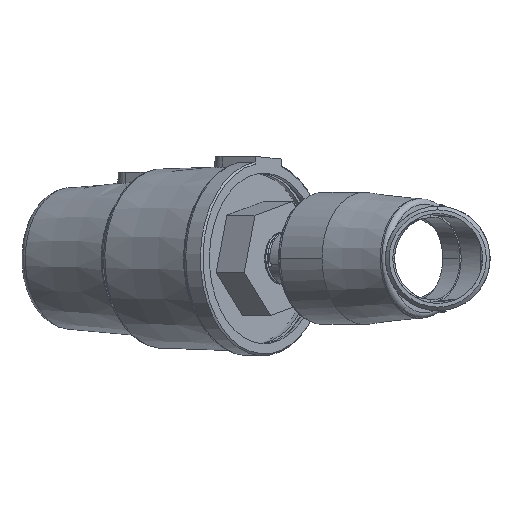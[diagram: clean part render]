
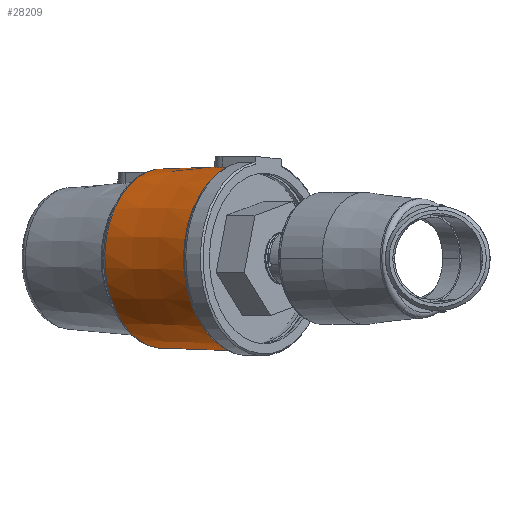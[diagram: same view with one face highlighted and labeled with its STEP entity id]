
A CAD part, left-side view. The second image highlights one B-rep face of the part: STEP entity #28209.
In plain terms, the highlighted conical face has half-angle 1.548 degrees and reference radius 48.921 mm.
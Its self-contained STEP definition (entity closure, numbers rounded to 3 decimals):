
#45 = VERTEX_POINT ( 'NONE', #87903 ) ;
#1550 = CARTESIAN_POINT ( 'NONE',  ( 501.979, 451.661, 49.215 ) ) ;
#3629 = DIRECTION ( 'NONE',  ( 0., 0., 1. ) ) ;
#6366 = CARTESIAN_POINT ( 'NONE',  ( 502.682, 462.445, 49.07 ) ) ;
#6713 = CARTESIAN_POINT ( 'NONE',  ( 509.098, 468.857, 49.815 ) ) ;
#7041 = CARTESIAN_POINT ( 'NONE',  ( 512.979, 507.47, 48.921 ) ) ;
#9598 = CIRCLE ( 'NONE', #26950, 48.921 ) ;
#9643 = CARTESIAN_POINT ( 'NONE',  ( 501.979, 453.167, 49.174 ) ) ;
#14443 = CARTESIAN_POINT ( 'NONE',  ( 503.436, 464.075, 49.178 ) ) ;
#14785 = CARTESIAN_POINT ( 'NONE',  ( 510.126, 469.188, 49.876 ) ) ;
#17717 = CARTESIAN_POINT ( 'NONE',  ( 501.979, 455.968, 49.096 ) ) ;
#22140 = VERTEX_POINT ( 'NONE', #39020 ) ;
#22242 = ORIENTED_EDGE ( 'NONE', *, *, #33998, .T. ) ;
#22542 = CARTESIAN_POINT ( 'NONE',  ( 504.252, 465.264, 49.296 ) ) ;
#22890 = CARTESIAN_POINT ( 'NONE',  ( 511.545, 469.488, 49.932 ) ) ;
#25833 = CARTESIAN_POINT ( 'NONE',  ( 501.979, 458.558, 49.024 ) ) ;
#26950 = AXIS2_PLACEMENT_3D ( 'NONE', #100015, #51791, #3629 ) ;
#27303 = VERTEX_POINT ( 'NONE', #67939 ) ;
#28209 = ADVANCED_FACE ( 'NONE', ( #36128 ), #31068, .T. ) ;
#29501 = DIRECTION ( 'NONE',  ( 0., 1., 0. ) ) ;
#30126 = EDGE_CURVE ( 'NONE', #45, #62513, #77599, .T. ) ;
#30314 = CARTESIAN_POINT ( 'NONE',  ( 501.979, 459.286, 49.004 ) ) ;
#30653 = CARTESIAN_POINT ( 'NONE',  ( 504.952, 466.088, 49.392 ) ) ;
#30990 = CARTESIAN_POINT ( 'NONE',  ( 512.979, 469.558, 49.946 ) ) ;
#31068 = CONICAL_SURFACE ( 'NONE', #59879, 48.921, 0.027 ) ;
#32891 = EDGE_CURVE ( 'NONE', #45, #71767, #9598, .T. ) ;
#33998 = EDGE_CURVE ( 'NONE', #62513, #27303, #101418, .T. ) ;
#35251 = DIRECTION ( 'NONE',  ( 0., -1., 0. ) ) ;
#36128 = FACE_OUTER_BOUND ( 'NONE', #44784, .T. ) ;
#38201 = CARTESIAN_POINT ( 'NONE',  ( 512.979, 507.47, -48.921 ) ) ;
#38729 = CARTESIAN_POINT ( 'NONE',  ( 506.265, 467.301, 49.558 ) ) ;
#39020 = CARTESIAN_POINT ( 'NONE',  ( 501.979, 458.558, 49.024 ) ) ;
#40076 = LINE ( 'NONE', #47446, #85406 ) ;
#43978 = EDGE_CURVE ( 'NONE', #22140, #71664, #83607, .T. ) ;
#44784 = EDGE_LOOP ( 'NONE', ( #70876, #56444, #62577, #22242, #46980, #72077 ) ) ;
#46453 = CARTESIAN_POINT ( 'NONE',  ( 502.261, 461.059, 49.018 ) ) ;
#46798 = CARTESIAN_POINT ( 'NONE',  ( 507.479, 468.091, 49.683 ) ) ;
#46980 = ORIENTED_EDGE ( 'NONE', *, *, #101296, .T. ) ;
#47446 = CARTESIAN_POINT ( 'NONE',  ( 512.979, 507.47, 48.921 ) ) ;
#51791 = DIRECTION ( 'NONE',  ( 0., 1., 0. ) ) ;
#54537 = CARTESIAN_POINT ( 'NONE',  ( 502.559, 462.101, 49.053 ) ) ;
#54878 = CARTESIAN_POINT ( 'NONE',  ( 508.436, 468.582, 49.767 ) ) ;
#56444 = ORIENTED_EDGE ( 'NONE', *, *, #32891, .F. ) ;
#59879 = AXIS2_PLACEMENT_3D ( 'NONE', #91493, #35251, #67222 ) ;
#62275 = CARTESIAN_POINT ( 'NONE',  ( 501.979, 458.558, 49.024 ) ) ;
#62513 = VERTEX_POINT ( 'NONE', #89035 ) ;
#62577 = ORIENTED_EDGE ( 'NONE', *, *, #30126, .T. ) ;
#62616 = CARTESIAN_POINT ( 'NONE',  ( 503.097, 463.444, 49.128 ) ) ;
#62958 = CARTESIAN_POINT ( 'NONE',  ( 509.436, 468.978, 49.837 ) ) ;
#65896 = CARTESIAN_POINT ( 'NONE',  ( 501.979, 454.673, 49.132 ) ) ;
#67222 = DIRECTION ( 'NONE',  ( 0., 0., -1. ) ) ;
#67939 = CARTESIAN_POINT ( 'NONE',  ( 501.979, 450.154, 49.257 ) ) ;
#70069 = AXIS2_PLACEMENT_3D ( 'NONE', #77657, #29501, #85755 ) ;
#70724 = CARTESIAN_POINT ( 'NONE',  ( 504.035, 464.972, 49.265 ) ) ;
#70876 = ORIENTED_EDGE ( 'NONE', *, *, #90005, .F. ) ;
#71062 = CARTESIAN_POINT ( 'NONE',  ( 510.48, 469.276, 49.892 ) ) ;
#71664 = VERTEX_POINT ( 'NONE', #78822 ) ;
#71767 = VERTEX_POINT ( 'NONE', #7041 ) ;
#72077 = ORIENTED_EDGE ( 'NONE', *, *, #43978, .T. ) ;
#73990 = CARTESIAN_POINT ( 'NONE',  ( 501.979, 457.263, 49.06 ) ) ;
#77599 = LINE ( 'NONE', #38201, #96477 ) ;
#77657 = CARTESIAN_POINT ( 'NONE',  ( 512.979, 450.154, 0. ) ) ;
#78822 = CARTESIAN_POINT ( 'NONE',  ( 512.979, 469.558, 49.946 ) ) ;
#78832 = CARTESIAN_POINT ( 'NONE',  ( 504.711, 465.822, 49.36 ) ) ;
#79172 = CARTESIAN_POINT ( 'NONE',  ( 512.259, 469.558, 49.946 ) ) ;
#82280 = B_SPLINE_CURVE_WITH_KNOTS ( 'NONE', 3,
 ( #97937, #1550, #9643, #65896, #17717, #73990, #25833 ),
 .UNSPECIFIED., .F., .F.,
 ( 4, 3, 4 ),
 ( 0.094, 0.098, 0.102 ),
 .UNSPECIFIED. ) ;
#83607 = B_SPLINE_CURVE_WITH_KNOTS ( 'NONE', 3,
 ( #62275, #30314, #94666, #46453, #102742, #54537, #6366, #62616, #14443, #70724, #22542, #78832, #30653, #86913, #38729, #95007, #46798, #103079, #54878, #6713, #62958, #14785, #71062, #22890, #79172, #30990 ),
 .UNSPECIFIED., .F., .F.,
 ( 4, 2, 2, 2, 2, 2, 2, 2, 2, 2, 2, 2, 4 ),
 ( 0., 0.002, 0.003, 0.004, 0.006, 0.008, 0.009, 0.011, 0.012, 0.013, 0.014, 0.015, 0.017 ),
 .UNSPECIFIED. ) ;
#85406 = VECTOR ( 'NONE', #95653, 1000. ) ;
#85755 = DIRECTION ( 'NONE',  ( 0., 0., 1. ) ) ;
#86913 = CARTESIAN_POINT ( 'NONE',  ( 505.712, 466.847, 49.491 ) ) ;
#87903 = CARTESIAN_POINT ( 'NONE',  ( 512.979, 507.47, -48.921 ) ) ;
#89035 = CARTESIAN_POINT ( 'NONE',  ( 512.979, 450.154, -50.47 ) ) ;
#90005 = EDGE_CURVE ( 'NONE', #71767, #71664, #40076, .T. ) ;
#91493 = CARTESIAN_POINT ( 'NONE',  ( 512.979, 507.47, 0. ) ) ;
#94666 = CARTESIAN_POINT ( 'NONE',  ( 502.05, 460.002, 49.001 ) ) ;
#95007 = CARTESIAN_POINT ( 'NONE',  ( 507.168, 467.905, 49.653 ) ) ;
#95653 = DIRECTION ( 'NONE',  ( 0., -1., 0.027 ) ) ;
#96477 = VECTOR ( 'NONE', #102549, 1000. ) ;
#97937 = CARTESIAN_POINT ( 'NONE',  ( 501.979, 450.154, 49.257 ) ) ;
#100015 = CARTESIAN_POINT ( 'NONE',  ( 512.979, 507.47, 0. ) ) ;
#101296 = EDGE_CURVE ( 'NONE', #27303, #22140, #82280, .T. ) ;
#101418 = CIRCLE ( 'NONE', #70069, 50.47 ) ;
#102549 = DIRECTION ( 'NONE',  ( 0., -1., -0.027 ) ) ;
#102742 = CARTESIAN_POINT ( 'NONE',  ( 502.348, 461.408, 49.027 ) ) ;
#103079 = CARTESIAN_POINT ( 'NONE',  ( 508.112, 468.429, 49.74 ) ) ;
